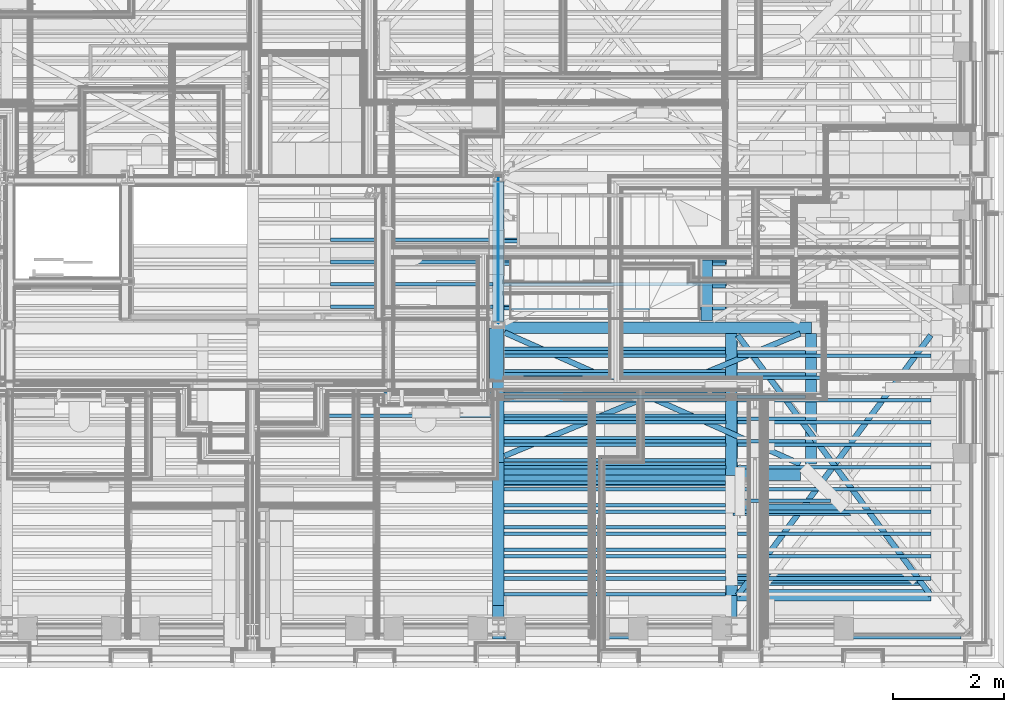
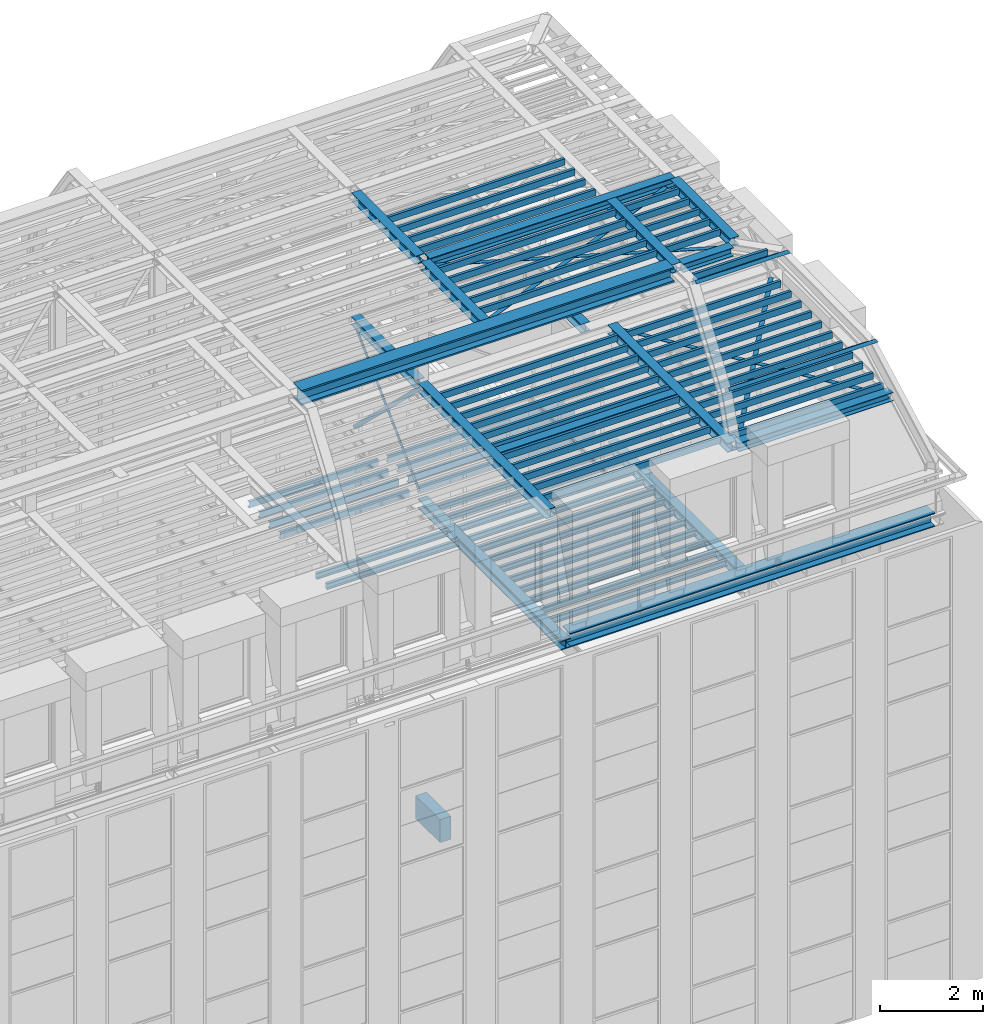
# One storey, part 9 of 183: 84 beams.
"""IFC2X3 building model written with IfcOpenShell, lengths in metres."""

from ifc_helpers import new_model, entity, si_unit, converted_unit, derived_unit, money_unit, direction, frame, frame_2d, origin_with_axes, place, context, subcontext, project, spatial, polyline, rectangle, outline, extrude, clip, halfspace, material, type_object, element, save


model = new_model("IFC2X3")

# Units and contexts
model_context = context("Model", 3, precision=1e-05, world=origin_with_axes(), true_north=direction((0.0, 1.0)))
body_context = subcontext(model_context, "Body", "Model", "MODEL_VIEW", scale=1.0)
ifc_project = project(units=[si_unit("LENGTHUNIT", "METRE"), si_unit("AREAUNIT", "SQUARE_METRE"), si_unit("VOLUMEUNIT", "CUBIC_METRE"), si_unit("ABSORBEDDOSEUNIT", "GRAY"), si_unit("AMOUNTOFSUBSTANCEUNIT", "MOLE"), si_unit("DOSEEQUIVALENTUNIT", "SIEVERT"), si_unit("ELECTRICCAPACITANCEUNIT", "FARAD"), si_unit("ELECTRICCHARGEUNIT", "COULOMB"), si_unit("ELECTRICCONDUCTANCEUNIT", "SIEMENS"), si_unit("ELECTRICCURRENTUNIT", "AMPERE"), si_unit("ELECTRICRESISTANCEUNIT", "OHM"), si_unit("ELECTRICVOLTAGEUNIT", "VOLT"), si_unit("ENERGYUNIT", "JOULE"), si_unit("FORCEUNIT", "NEWTON"), si_unit("FREQUENCYUNIT", "HERTZ"), si_unit("ILLUMINANCEUNIT", "LUX"), si_unit("INDUCTANCEUNIT", "HENRY"), si_unit("LUMINOUSFLUXUNIT", "LUMEN"), si_unit("LUMINOUSINTENSITYUNIT", "CANDELA"), si_unit("MAGNETICFLUXDENSITYUNIT", "TESLA"), si_unit("MAGNETICFLUXUNIT", "WEBER"), si_unit("MASSUNIT", "GRAM"), converted_unit("PLANEANGLEUNIT", "degree", entity("IfcReal", 0.0174532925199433), si_unit("PLANEANGLEUNIT", "RADIAN"), dimensions=[0, 0, 0, 0, 0, 0, 0]), si_unit("POWERUNIT", "WATT"), si_unit("PRESSUREUNIT", "PASCAL"), si_unit("RADIOACTIVITYUNIT", "BECQUEREL"), si_unit("SOLIDANGLEUNIT", "STERADIAN"), si_unit("THERMODYNAMICTEMPERATUREUNIT", "KELVIN"), si_unit("TIMEUNIT", "SECOND"), derived_unit("ACCELERATIONUNIT", [(si_unit("LENGTHUNIT", "METRE"), 1), (si_unit("TIMEUNIT", "SECOND"), -2)]), derived_unit("ANGULARVELOCITYUNIT", [(converted_unit("PLANEANGLEUNIT", "degree", entity("IfcReal", 0.0174532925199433), si_unit("PLANEANGLEUNIT", "RADIAN"), dimensions=[0, 0, 0, 0, 0, 0, 0]), 1), (si_unit("TIMEUNIT", "SECOND"), -1)]), derived_unit("CURVATUREUNIT", [(converted_unit("PLANEANGLEUNIT", "degree", entity("IfcReal", 0.0174532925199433), si_unit("PLANEANGLEUNIT", "RADIAN"), dimensions=[0, 0, 0, 0, 0, 0, 0]), 1), (si_unit("LENGTHUNIT", "METRE"), -1)]), derived_unit("DYNAMICVISCOSITYUNIT", [(si_unit("PRESSUREUNIT", "PASCAL"), 1), (si_unit("TIMEUNIT", "SECOND"), 1)]), derived_unit("HEATFLUXDENSITYUNIT", [(si_unit("POWERUNIT", "WATT"), 1), (si_unit("LENGTHUNIT", "METRE"), -2)]), derived_unit("HEATINGVALUEUNIT", [(si_unit("ENERGYUNIT", "JOULE"), 1), (si_unit("MASSUNIT", "GRAM"), -1)]), derived_unit("INTEGERCOUNTRATEUNIT", [(si_unit("TIMEUNIT", "SECOND"), -1)]), derived_unit("IONCONCENTRATIONUNIT", [(si_unit("MASSUNIT", "GRAM"), 1), (si_unit("VOLUMEUNIT", "CUBIC_METRE"), -1)]), derived_unit("ISOTHERMALMOISTURECAPACITYUNIT", [(si_unit("VOLUMEUNIT", "CUBIC_METRE"), 1), (si_unit("MASSUNIT", "GRAM"), -1)]), derived_unit("KINEMATICVISCOSITYUNIT", [(si_unit("AREAUNIT", "SQUARE_METRE"), 1), (si_unit("TIMEUNIT", "SECOND"), -1)]), derived_unit("LINEARFORCEUNIT", [(si_unit("FORCEUNIT", "NEWTON"), 1), (si_unit("LENGTHUNIT", "METRE"), -1)]), derived_unit("LINEARMOMENTUNIT", [(si_unit("FORCEUNIT", "NEWTON"), 1), (si_unit("LENGTHUNIT", "METRE"), -1)]), derived_unit("LINEARSTIFFNESSUNIT", [(si_unit("FORCEUNIT", "NEWTON"), 1), (si_unit("LENGTHUNIT", "METRE"), -1)]), derived_unit("LINEARVELOCITYUNIT", [(si_unit("LENGTHUNIT", "METRE"), 1), (si_unit("TIMEUNIT", "SECOND"), -1)]), derived_unit("LUMINOUSINTENSITYDISTRIBUTIONUNIT", [(si_unit("LUMINOUSINTENSITYUNIT", "CANDELA"), 1), (si_unit("LUMINOUSFLUXUNIT", "LUMEN"), -1)]), derived_unit("MASSDENSITYUNIT", [(si_unit("MASSUNIT", "GRAM"), 1), (si_unit("VOLUMEUNIT", "CUBIC_METRE"), -1)]), derived_unit("MASSFLOWRATEUNIT", [(si_unit("MASSUNIT", "GRAM"), 1), (si_unit("TIMEUNIT", "SECOND"), -1)]), derived_unit("MASSPERLENGTHUNIT", [(si_unit("MASSUNIT", "GRAM"), 1), (si_unit("LENGTHUNIT", "METRE"), -1)]), derived_unit("MODULUSOFELASTICITYUNIT", [(si_unit("FORCEUNIT", "NEWTON"), 1), (si_unit("AREAUNIT", "SQUARE_METRE"), -1)]), derived_unit("MODULUSOFLINEARSUBGRADEREACTIONUNIT", [(si_unit("FORCEUNIT", "NEWTON"), 1), (si_unit("LENGTHUNIT", "METRE"), -2)]), derived_unit("MODULUSOFROTATIONALSUBGRADEREACTIONUNIT", [(si_unit("FORCEUNIT", "NEWTON"), 1), (si_unit("LENGTHUNIT", "METRE"), 1)]), derived_unit("MODULUSOFSUBGRADEREACTIONUNIT", [(si_unit("FORCEUNIT", "NEWTON"), 1), (si_unit("VOLUMEUNIT", "CUBIC_METRE"), -1)]), derived_unit("MOISTUREDIFFUSIVITYUNIT", [(si_unit("VOLUMEUNIT", "CUBIC_METRE"), 1), (si_unit("TIMEUNIT", "SECOND"), -1)]), derived_unit("MOLECULARWEIGHTUNIT", [(si_unit("MASSUNIT", "GRAM"), 1), (si_unit("AMOUNTOFSUBSTANCEUNIT", "MOLE"), -1)]), derived_unit("PLANARFORCEUNIT", [(si_unit("FORCEUNIT", "NEWTON"), 1), (si_unit("LENGTHUNIT", "METRE"), -2)]), derived_unit("ROTATIONALFREQUENCYUNIT", [(si_unit("TIMEUNIT", "SECOND"), -1)]), derived_unit("ROTATIONALMASSUNIT", [(si_unit("MASSUNIT", "GRAM"), 1), (si_unit("LENGTHUNIT", "METRE"), 2)]), derived_unit("ROTATIONALSTIFFNESSUNIT", [(si_unit("FORCEUNIT", "NEWTON"), 1), (si_unit("LENGTHUNIT", "METRE"), 1), (converted_unit("PLANEANGLEUNIT", "degree", entity("IfcReal", 0.0174532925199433), si_unit("PLANEANGLEUNIT", "RADIAN"), dimensions=[0, 0, 0, 0, 0, 0, 0]), -1)]), derived_unit("SECTIONAREAINTEGRALUNIT", [(si_unit("LENGTHUNIT", "METRE"), 5)]), derived_unit("SECTIONMODULUSUNIT", [(si_unit("LENGTHUNIT", "METRE"), 3)]), derived_unit("SHEARMODULUSUNIT", [(si_unit("FORCEUNIT", "NEWTON"), 1), (si_unit("AREAUNIT", "SQUARE_METRE"), -1)]), derived_unit("SOUNDPOWERUNIT", [(si_unit("ENERGYUNIT", "JOULE"), 1), (si_unit("TIMEUNIT", "SECOND"), -1)]), derived_unit("SPECIFICHEATCAPACITYUNIT", [(si_unit("FORCEUNIT", "NEWTON"), 1), (si_unit("MASSUNIT", "GRAM"), -1), (si_unit("THERMODYNAMICTEMPERATUREUNIT", "KELVIN"), -1)]), derived_unit("TEMPERATUREGRADIENTUNIT", [(si_unit("THERMODYNAMICTEMPERATUREUNIT", "KELVIN"), 1), (si_unit("LENGTHUNIT", "METRE"), -1)]), derived_unit("THERMALADMITTANCEUNIT", [(si_unit("POWERUNIT", "WATT"), 1), (si_unit("AREAUNIT", "SQUARE_METRE"), -1), (si_unit("THERMODYNAMICTEMPERATUREUNIT", "KELVIN"), -1)]), derived_unit("THERMALCONDUCTANCEUNIT", [(si_unit("POWERUNIT", "WATT"), 1), (si_unit("LENGTHUNIT", "METRE"), -1), (si_unit("THERMODYNAMICTEMPERATUREUNIT", "KELVIN"), -1)]), derived_unit("THERMALEXPANSIONCOEFFICIENTUNIT", [(si_unit("THERMODYNAMICTEMPERATUREUNIT", "KELVIN"), -1)]), derived_unit("THERMALRESISTANCEUNIT", [(si_unit("AREAUNIT", "SQUARE_METRE"), 1), (si_unit("POWERUNIT", "WATT"), -1)]), derived_unit("THERMALTRANSMITTANCEUNIT", [(si_unit("POWERUNIT", "WATT"), 1), (si_unit("AREAUNIT", "SQUARE_METRE"), -1), (si_unit("THERMODYNAMICTEMPERATUREUNIT", "KELVIN"), -1)]), derived_unit("TORQUEUNIT", [(si_unit("FORCEUNIT", "NEWTON"), 1), (si_unit("LENGTHUNIT", "METRE"), 1)]), derived_unit("VAPORPERMEABILITYUNIT", [(si_unit("MASSUNIT", "GRAM"), 1), (si_unit("TIMEUNIT", "SECOND"), -1)]), derived_unit("VOLUMETRICFLOWRATEUNIT", [(si_unit("VOLUMEUNIT", "CUBIC_METRE"), 1), (si_unit("TIMEUNIT", "SECOND"), -1)]), derived_unit("WARPINGCONSTANTUNIT", [(si_unit("LENGTHUNIT", "METRE"), 6)]), derived_unit("WARPINGMOMENTUNIT", [(si_unit("FORCEUNIT", "NEWTON"), 1), (si_unit("LENGTHUNIT", "METRE"), 2)]), money_unit("GBP")], contexts=[model_context])

# Site, building, storey
site_placement = place(None, origin_with_axes())
site = spatial("IfcSite", under=ifc_project, at=site_placement, Name="Site", CompositionType="ELEMENT")
building_placement = place(site_placement, origin_with_axes())
building = spatial("IfcBuilding", under=site, at=building_placement, Name="Building01", CompositionType="ELEMENT")
storey_placement = place(building_placement, frame((0.0, 0.0, 5.15), z_axis=(0.0, 0.0, 1.0), x_axis=(1.0, 0.0, 0.0)))
storey = spatial("IfcBuildingStorey", under=building, at=storey_placement, Name="1F", CompositionType="ELEMENT", Elevation=5.15)

# Beams
ifc_material_1 = material(Name="A_BSUK_Beams_Steel")
beam_type_1 = type_object("IfcBeamType", Name="A-Beams-Steel", PredefinedType="BEAM")
beam_1_placement = place(storey_placement, frame((17.80545, 6.1, 9.5078), z_axis=(0.0, -1.0, 0.0), x_axis=(1.0, 0.0, 0.0)))
element("IfcBeam", 1, at=beam_1_placement, inside=storey, type_object=beam_type_1, material=ifc_material_1, Name="4F", ObjectType="A-Beams-Steel", context=body_context, shape_type="SweptSolid", body=[
    extrude(outline(polyline([(0.2091, 0.0), (0.2091, 0.0205), (0.1109, 0.0205), (0.1109, 0.2017), (0.2091, 0.2017), (0.2091, 0.2222), (0.0, 0.2222), (0.0, 0.2017), (0.0982, 0.2017), (0.0982, 0.0205), (0.0, 0.0205), (0.0, 0.0), (0.2091, 0.0)])), origin_with_axes(), (0.0, 0.0, 1.0), 5.58),
])
beam_2_placement = place(storey_placement, frame((21.98545, 5.9408, 9.5078), z_axis=(0.0, -1.0, 0.0), x_axis=(1.0, 0.0, 0.0)))
element("IfcBeam", 2, at=beam_2_placement, inside=storey, type_object=beam_type_1, material=ifc_material_1, Name="4F", ObjectType="A-Beams-Steel", context=body_context, shape_type="SweptSolid", body=[
    extrude(outline(polyline([(0.2091, 0.0), (0.2091, 0.0205), (0.1109, 0.0205), (0.1109, 0.2017), (0.2091, 0.2017), (0.2091, 0.2222), (0.0, 0.2222), (0.0, 0.2017), (0.0982, 0.2017), (0.0982, 0.0205), (0.0, 0.0205), (0.0, 0.0), (0.2091, 0.0)])), origin_with_axes(), (0.0, 0.0, 1.0), 5.1096),
])
beam_3_placement = place(storey_placement, frame((18.01455, 0.52, 9.5078), z_axis=(1.0, 0.0, 0.0), x_axis=(0.0, 1.0, 0.0)))
element("IfcBeam", 3, at=beam_3_placement, inside=storey, type_object=beam_type_1, material=ifc_material_1, Name="4F", ObjectType="A-Beams-Steel", context=body_context, shape_type="SweptSolid", body=[
    extrude(outline(polyline([(0.3112, 0.0), (0.3112, 0.025), (0.1635, 0.025), (0.1635, 0.3021), (0.3112, 0.3021), (0.3112, 0.3271), (0.0, 0.3271), (0.0, 0.3021), (0.1477, 0.3021), (0.1477, 0.025), (0.0, 0.025), (0.0, 0.0), (0.3112, 0.0)])), origin_with_axes(), (0.0, 0.0, 1.0), 8.19635),
])
beam_4_placement = place(storey_placement, frame((22.19455, 1.1982, 12.2768), z_axis=(1.0, 0.0, 0.0), x_axis=(0.0, 1.0, 0.0)))
element("IfcBeam", 4, at=beam_4_placement, inside=storey, type_object=beam_type_1, material=ifc_material_1, Name="5F", ObjectType="A-Beams-Steel", context=body_context, shape_type="SweptSolid", body=[
    extrude(outline(polyline([(0.2036, 0.0), (0.2036, 0.011), (0.1054, 0.011), (0.1054, 0.1922), (0.2036, 0.1922), (0.2036, 0.2032), (0.0, 0.2032), (0.0, 0.1922), (0.0982, 0.1922), (0.0982, 0.011), (0.0, 0.011), (0.0, 0.0), (0.2036, 0.0)])), origin_with_axes(), (0.0, 0.0, 1.0), 3.47225),
])
beam_5_placement = place(storey_placement, frame((17.8068, 6.1, 12.2642), z_axis=(0.0, -1.0, 0.0), x_axis=(1.0, 0.0, 0.0)))
element("IfcBeam", 5, at=beam_5_placement, inside=storey, type_object=beam_type_1, material=ifc_material_1, Name="5F", ObjectType="A-Beams-Steel", context=body_context, shape_type="SweptSolid", body=[
    extrude(outline(polyline([(0.2064, 0.0), (0.2064, 0.0173), (0.1082, 0.0173), (0.1082, 0.1985), (0.2064, 0.1985), (0.2064, 0.2158), (0.0, 0.2158), (0.0, 0.1985), (0.0982, 0.1985), (0.0982, 0.0173), (0.0, 0.0173), (0.0, 0.0), (0.2064, 0.0)])), origin_with_axes(), (0.0, 0.0, 1.0), 4.980311),
])
beam_6_placement = place(storey_placement, frame((21.9968, 5.967373, 12.2642), z_axis=(0.0, -1.0, 0.0), x_axis=(1.0, 0.0, 0.0)))
element("IfcBeam", 6, at=beam_6_placement, inside=storey, type_object=beam_type_1, material=ifc_material_1, Name="5F", ObjectType="A-Beams-Steel", context=body_context, shape_type="SweptSolid", body=[
    extrude(outline(polyline([(0.2064, 0.0), (0.2064, 0.0173), (0.1082, 0.0173), (0.1082, 0.1985), (0.2064, 0.1985), (0.2064, 0.2158), (0.0, 0.2158), (0.0, 0.1985), (0.0982, 0.1985), (0.0982, 0.0173), (0.0, 0.0173), (0.0, 0.0), (0.2064, 0.0)])), origin_with_axes(), (0.0, 0.0, 1.0), 4.665573),
])
beam_7_placement = place(storey_placement, frame((17.8082, 8.725, 12.2768), z_axis=(0.0, -1.0, 0.0), x_axis=(1.0, 0.0, 0.0)))
element("IfcBeam", 7, at=beam_7_placement, inside=storey, type_object=beam_type_1, material=ifc_material_1, Name="5F", ObjectType="A-Beams-Steel", context=body_context, shape_type="SweptSolid", body=[
    extrude(outline(polyline([(0.2036, 0.0), (0.2036, 0.011), (0.1054, 0.011), (0.1054, 0.1922), (0.2036, 0.1922), (0.2036, 0.2032), (0.0, 0.2032), (0.0, 0.1922), (0.0982, 0.1922), (0.0982, 0.011), (0.0, 0.011), (0.0, 0.0), (0.2036, 0.0)])), origin_with_axes(), (0.0, 0.0, 1.0), 2.525),
])
beam_8_placement = place(storey_placement, frame((21.5482, 7.3174, 12.2768), z_axis=(0.0, -1.0, 0.0), x_axis=(1.0, 0.0, 0.0)))
element("IfcBeam", 8, at=beam_8_placement, inside=storey, type_object=beam_type_1, material=ifc_material_1, Name="5F", ObjectType="A-Beams-Steel", context=body_context, shape_type="SweptSolid", body=[
    extrude(outline(polyline([(0.2036, 0.0), (0.2036, 0.011), (0.1054, 0.011), (0.1054, 0.1922), (0.2036, 0.1922), (0.2036, 0.2032), (0.0, 0.2032), (0.0, 0.1922), (0.0982, 0.1922), (0.0982, 0.011), (0.0, 0.011), (0.0, 0.0), (0.2036, 0.0)])), origin_with_axes(), (0.0, 0.0, 1.0), 1.084457),
])
beam_9_placement = place(storey_placement, frame((18.0132, 3.2582, 12.2768), z_axis=(1.0, 0.0, 0.0), x_axis=(0.0, 1.0, 0.0)))
element("IfcBeam", 9, at=beam_9_placement, inside=storey, type_object=beam_type_1, material=ifc_material_1, Name="5F", ObjectType="A-Beams-Steel", context=body_context, shape_type="SweptSolid", body=[
    extrude(outline(polyline([(0.2036, 0.0), (0.2036, 0.011), (0.1054, 0.011), (0.1054, 0.1922), (0.2036, 0.1922), (0.2036, 0.2032), (0.0, 0.2032), (0.0, 0.1922), (0.0982, 0.1922), (0.0982, 0.011), (0.0, 0.011), (0.0, 0.0), (0.2036, 0.0)])), origin_with_axes(), (0.0, 0.0, 1.0), 3.9836),
])
beam_10_placement = place(storey_placement, frame((17.8082, 8.6968, 15.2268), z_axis=(0.0, -1.0, 0.0), x_axis=(1.0, 0.0, 0.0)))
element("IfcBeam", 10, at=beam_10_placement, inside=storey, type_object=beam_type_1, material=ifc_material_1, Name="RP", ObjectType="A-Beams-Steel", context=body_context, shape_type="SweptSolid", body=[
    extrude(outline(polyline([(0.2036, 0.0), (0.2036, 0.011), (0.1054, 0.011), (0.1054, 0.1922), (0.2036, 0.1922), (0.2036, 0.2032), (0.0, 0.2032), (0.0, 0.1922), (0.0982, 0.1922), (0.0982, 0.011), (0.0, 0.011), (0.0, 0.0), (0.2036, 0.0)])), origin_with_axes(), (0.0, 0.0, 1.0), 2.495),
])
beam_11_placement = place(storey_placement, frame((17.8082, 5.9982, 15.2268), z_axis=(0.0, -1.0, 0.0), x_axis=(1.0, 0.0, 0.0)))
element("IfcBeam", 11, at=beam_11_placement, inside=storey, type_object=beam_type_1, material=ifc_material_1, Name="RP", ObjectType="A-Beams-Steel", context=body_context, shape_type="SweptSolid", body=[
    extrude(outline(polyline([(0.2036, 0.0), (0.2036, 0.011), (0.1054, 0.011), (0.1054, 0.1922), (0.2036, 0.1922), (0.2036, 0.2032), (0.0, 0.2032), (0.0, 0.1922), (0.0982, 0.1922), (0.0982, 0.011), (0.0, 0.011), (0.0, 0.0), (0.2036, 0.0)])), origin_with_axes(), (0.0, 0.0, 1.0), 2.319),
])
beam_12_placement = place(storey_placement, frame((21.988166, 5.9968, 15.2268), z_axis=(0.0, -1.0, 0.0), x_axis=(1.0, 0.0, 0.0)))
element("IfcBeam", 12, at=beam_12_placement, inside=storey, type_object=beam_type_1, material=ifc_material_1, Name="RP", ObjectType="A-Beams-Steel", context=body_context, shape_type="SweptSolid", body=[
    extrude(outline(polyline([(0.2036, 0.0), (0.2036, 0.011), (0.1054, 0.011), (0.1054, 0.1922), (0.2036, 0.1922), (0.2036, 0.2032), (0.0, 0.2032), (0.0, 0.1922), (0.0982, 0.1922), (0.0982, 0.011), (0.0, 0.011), (0.0, 0.0), (0.2036, 0.0)])), origin_with_axes(), (0.0, 0.0, 1.0), 2.546),
])
beam_13_placement = place(storey_placement, frame((23.415402, 5.9968, 15.2268), z_axis=(0.0, -1.0, 0.0), x_axis=(1.0, 0.0, 0.0)))
element("IfcBeam", 13, at=beam_13_placement, inside=storey, type_object=beam_type_1, material=ifc_material_1, Name="RP", ObjectType="A-Beams-Steel", context=body_context, shape_type="SweptSolid", body=[
    extrude(outline(polyline([(0.2036, 0.0), (0.2036, 0.011), (0.1054, 0.011), (0.1054, 0.1922), (0.2036, 0.1922), (0.2036, 0.2032), (0.0, 0.2032), (0.0, 0.1922), (0.0982, 0.1922), (0.0982, 0.011), (0.0, 0.011), (0.0, 0.0), (0.2036, 0.0)])), origin_with_axes(), (0.0, 0.0, 1.0), 2.3424),
])
beam_14_placement = place(storey_placement, frame((22.191766, 3.3608, 15.2268), z_axis=(1.0, 0.0, 0.0), x_axis=(0.0, 1.0, 0.0)))
element("IfcBeam", 14, at=beam_14_placement, inside=storey, type_object=beam_type_1, material=ifc_material_1, Name="RP", ObjectType="A-Beams-Steel", context=body_context, shape_type="SweptSolid", body=[
    extrude(outline(polyline([(0.2036, 0.0), (0.2036, 0.011), (0.1054, 0.011), (0.1054, 0.1922), (0.2036, 0.1922), (0.2036, 0.2032), (0.0, 0.2032), (0.0, 0.1922), (0.0982, 0.1922), (0.0982, 0.011), (0.0, 0.011), (0.0, 0.0), (0.2036, 0.0)])), origin_with_axes(), (0.0, 0.0, 1.0), 1.133636),
])
beam_15_placement = place(storey_placement, frame((18.0118, 5.9968, 15.2142), z_axis=(1.0, 0.0, 0.0), x_axis=(0.0, 1.0, 0.0)))
element("IfcBeam", 15, at=beam_15_placement, inside=storey, type_object=beam_type_1, material=ifc_material_1, Name="RP", ObjectType="A-Beams-Steel", context=body_context, shape_type="SweptSolid", body=[
    extrude(outline(polyline([(0.2064, 0.0), (0.2064, 0.0173), (0.1082, 0.0173), (0.1082, 0.1985), (0.2064, 0.1985), (0.2064, 0.2158), (0.0, 0.2158), (0.0, 0.1985), (0.0982, 0.1985), (0.0982, 0.0173), (0.0, 0.0173), (0.0, 0.0), (0.2064, 0.0)])), origin_with_axes(), (0.0, 0.0, 1.0), 5.517202),
])
beam_16_placement = place(storey_placement, frame((13.6018, 3.3608, 15.0775), z_axis=(1.0, 0.0, 0.0), x_axis=(0.0, 1.0, 0.0)))
element("IfcBeam", 16, at=beam_16_placement, inside=storey, type_object=beam_type_1, material=ifc_material_1, Name="RP", ObjectType="A-Beams-Steel", context=body_context, shape_type="SweptSolid", body=[
    extrude(outline(polyline([(0.3184, 0.0), (0.3184, 0.0377), (0.1707, 0.0377), (0.1707, 0.3148), (0.3184, 0.3148), (0.3184, 0.3525), (0.0, 0.3525), (0.0, 0.3148), (0.1477, 0.3148), (0.1477, 0.0377), (0.0, 0.0377), (0.0, 0.0), (0.3184, 0.0)])), origin_with_axes(), (0.0, 0.0, 1.0), 8.386366),
])
for number, where, z_axis, x_axis, name in (
    (17, (22.163054, 5.93757, 12.318), (0.59607395, -0.80292954, 0.0), (0.80292954, 0.59607395, 0.0), "5F"),
    (18, (25.626654, 5.997177, 12.308), (-0.59607395, -0.80292954, 0.0), (0.80292954, -0.59607395, 0.0), "5F"),
):
    element("IfcBeam", number, at=place(storey_placement, frame(where, z_axis=z_axis, x_axis=x_axis)), inside=storey, type_object=beam_type_1, material=ifc_material_1, Name=name, ObjectType="A-Beams-Steel", context=body_context, shape_type="SweptSolid", body=[
        extrude(rectangle(XDim=0.01, YDim=0.1, at=frame_2d((0.05, 0.005), x_axis=(0.0, 1.0))), origin_with_axes(), (0.0, 0.0, 1.0), 5.810688),
    ])
beam_17_placement = place(storey_placement, frame((18.038221, 3.755335, 15.268), z_axis=(0.92404426, 0.3822855, 0.0), x_axis=(-0.3822855, 0.92404426, 0.0)))
element("IfcBeam", 19, at=beam_17_placement, inside=storey, type_object=beam_type_1, material=ifc_material_1, Name="RP", ObjectType="A-Beams-Steel", context=body_context, shape_type="SweptSolid", body=[
    extrude(rectangle(XDim=0.01, YDim=0.1, at=frame_2d((0.05, 0.005), x_axis=(0.0, 1.0))), origin_with_axes(), (0.0, 0.0, 1.0), 5.742468),
])
beam_18_placement = place(storey_placement, frame((17.99973, 5.969692, 15.258), z_axis=(0.91361602, -0.40657812, 0.0), x_axis=(0.40657812, 0.91361602, 0.0)))
element("IfcBeam", 20, at=beam_18_placement, inside=storey, type_object=beam_type_1, material=ifc_material_1, Name="RP", ObjectType="A-Beams-Steel", context=body_context, shape_type="SweptSolid", body=[
    extrude(rectangle(XDim=0.01, YDim=0.1, at=frame_2d((0.05, 0.005), x_axis=(0.0, 1.0))), origin_with_axes(), (0.0, 0.0, 1.0), 5.806967),
])
beam_19_placement = place(storey_placement, frame((17.92, 8.75159, 9.719864), z_axis=(0.0, -0.71744141, 0.69661885), x_axis=(0.0, 0.69661885, 0.71744141)))
element("IfcBeam", 21, at=beam_19_placement, inside=storey, type_object=beam_type_1, material=ifc_material_1, Name="4F", ObjectType="A-Beams-Steel", context=body_context, shape_type="SweptSolid", body=[
    extrude(rectangle(XDim=0.01, YDim=0.1, at=frame_2d((0.05, 0.005), x_axis=(0.0, 1.0))), origin_with_axes(), (0.0, 0.0, 1.0), 3.594784),
])
beam_20_placement = place(storey_placement, frame((17.91, 6.184843, 9.844613), z_axis=(0.0, 0.71831265, 0.69572044), x_axis=(0.0, 0.69572044, -0.71831265)))
element("IfcBeam", 22, at=beam_20_placement, inside=storey, type_object=beam_type_1, material=ifc_material_1, Name="4F", ObjectType="A-Beams-Steel", context=body_context, shape_type="SweptSolid", body=[
    extrude(rectangle(XDim=0.01, YDim=0.1, at=frame_2d((0.05, 0.005), x_axis=(0.0, 1.0))), origin_with_axes(), (0.0, 0.0, 1.0), 3.50123),
])
beam_21_placement = place(storey_placement, frame((24.241618, 2.940134, 15.308898), z_axis=(-1.0, 0.0, 0.0), x_axis=(0.0, -0.57351196, -0.81919718)))
element("IfcBeam", 23, at=beam_21_placement, inside=storey, type_object=beam_type_1, material=ifc_material_1, Name="RP", ObjectType="A-Beams-Steel", context=body_context, shape_type="Clipping", body=[
    clip(clip(extrude(outline(polyline([(0.075, 0.0), (0.075, 0.012), (0.006, 0.012), (0.006, 0.188), (0.075, 0.188), (0.075, 0.2), (0.0, 0.2), (0.0, 0.0), (0.075, 0.0)])), origin_with_axes(), (0.0, 0.0, 1.0), 2.119791), halfspace(frame((0.059316, 0.084727, 0.103426), z_axis=(0.4055342, 0.57925988, 0.70710678), x_axis=(0.86746356, 0.0, -0.49750073)), True)), halfspace(frame((-6.106865, -8.722969, 10.648192), z_axis=(0.4055342, 0.57925988, -0.70710678), x_axis=(-0.86746356, 0.0, -0.49750073)), True)),
])
beam_22_placement = place(storey_placement, frame((25.497526, 1.684227, 13.514975), z_axis=(-1.0, 0.0, 0.0), x_axis=(0.0, -0.57351196, -0.81919718)))
element("IfcBeam", 24, at=beam_22_placement, inside=storey, type_object=beam_type_1, material=ifc_material_1, Name="5F", ObjectType="A-Beams-Steel", context=body_context, shape_type="Clipping", body=[
    clip(clip(extrude(outline(polyline([(0.075, 0.0), (0.075, 0.012), (0.006, 0.012), (0.006, 0.188), (0.075, 0.188), (0.075, 0.2), (0.0, 0.2), (0.0, 0.0), (0.075, 0.0)])), origin_with_axes(), (0.0, 0.0, 1.0), 3.354332), halfspace(frame((0.059316, 0.084727, 0.103426), z_axis=(0.4055342, 0.57925988, 0.70710678), x_axis=(0.86746356, 0.0, -0.49750073)), True)), halfspace(frame((-6.827144, -9.751805, 11.9041), z_axis=(0.4055342, 0.57925988, -0.70710678), x_axis=(-0.86746356, 0.0, -0.49750073)), True)),
])
ifc_material_2 = material(Name="S_BSUK_Beams_PrecastConcrete")
beam_type_2 = type_object("IfcBeamType", Name="S-Beams:S_BSUK_Beams_PrecastConcrete", PredefinedType="NOTDEFINED")
beam_23_placement = place(storey_placement, frame((17.75, 6.1, 2.142), z_axis=(0.0, -1.0, 0.0), x_axis=(1.0, 0.0, 0.0)))
element("IfcBeam", 25, at=beam_23_placement, inside=storey, type_object=beam_type_2, material=ifc_material_2, Name="S-Beams--S_BSUK_Beams_PrecastConcrete", ObjectType="S-Beams:S_BSUK_Beams_PrecastConcrete", context=body_context, shape_type="SweptSolid", body=[
    extrude(rectangle(XDim=0.548, YDim=0.25, at=frame_2d((0.125, 0.274), x_axis=(0.0, 1.0))), origin_with_axes(), (0.0, 0.0, 1.0), 0.95),
])
beam_type_3 = type_object("IfcBeamType", Name="SHE_A-Beams-Steel-Purlin_150m15", PredefinedType="BEAM")
for number, where, z_axis, x_axis, name in (
    (26, (21.98545, 1.352, 9.578), (-1.0, 0.0, 0.0), (0.0, -1.0, 0.0), "4F"),
    (27, (21.98545, 1.752, 9.578), (-1.0, 0.0, 0.0), (0.0, -1.0, 0.0), "4F"),
    (28, (21.98545, 2.152, 9.578), (-1.0, 0.0, 0.0), (0.0, -1.0, 0.0), "4F"),
    (29, (21.98545, 2.552, 9.578), (-1.0, 0.0, 0.0), (0.0, -1.0, 0.0), "4F"),
    (30, (21.98545, 2.952, 9.578), (-1.0, 0.0, 0.0), (0.0, -1.0, 0.0), "4F"),
    (31, (21.98545, 3.352, 9.578), (-1.0, 0.0, 0.0), (0.0, -1.0, 0.0), "4F"),
    (32, (21.98545, 3.752, 9.578), (-1.0, 0.0, 0.0), (0.0, -1.0, 0.0), "4F"),
    (33, (21.98545, 4.152, 9.578), (-1.0, 0.0, 0.0), (0.0, -1.0, 0.0), "4F"),
    (34, (21.98545, 4.552, 9.578), (-1.0, 0.0, 0.0), (0.0, -1.0, 0.0), "4F"),
    (35, (21.98545, 4.952, 9.578), (-1.0, 0.0, 0.0), (0.0, -1.0, 0.0), "4F"),
    (36, (21.98545, 5.352, 9.578), (-1.0, 0.0, 0.0), (0.0, -1.0, 0.0), "4F"),
    (37, (21.98545, 5.752, 9.578), (-1.0, 0.0, 0.0), (0.0, -1.0, 0.0), "4F"),
):
    element("IfcBeam", number, at=place(storey_placement, frame(where, z_axis=z_axis, x_axis=x_axis)), inside=storey, type_object=beam_type_3, material=ifc_material_1, Name=name, ObjectType="SHE_A-Beams-Steel-Purlin_150m15", context=body_context, shape_type="SweptSolid", body=[
        extrude(outline(polyline([(0.064, 0.0), (0.064, 0.0155), (0.0625, 0.0155), (0.0625, 0.0015), (0.0015, 0.0015), (0.0015, 0.1505), (0.0625, 0.1505), (0.0625, 0.1365), (0.064, 0.1365), (0.064, 0.152), (0.0, 0.152), (0.0, 0.0), (0.064, 0.0)])), origin_with_axes(), (0.0, 0.0, 1.0), 3.9709),
    ])
for number, where, z_axis, x_axis, name in (
    (38, (22.2032, 1.5698, 12.328), (1.0, 0.0, 0.0), (0.0, 1.0, 0.0), "5F"),
    (39, (22.2032, 1.9698, 12.328), (1.0, 0.0, 0.0), (0.0, 1.0, 0.0), "5F"),
    (40, (22.2032, 2.3698, 12.328), (1.0, 0.0, 0.0), (0.0, 1.0, 0.0), "5F"),
    (41, (22.2032, 2.7698, 12.328), (1.0, 0.0, 0.0), (0.0, 1.0, 0.0), "5F"),
    (42, (22.2032, 3.1698, 12.328), (1.0, 0.0, 0.0), (0.0, 1.0, 0.0), "5F"),
    (43, (22.2032, 3.5698, 12.328), (1.0, 0.0, 0.0), (0.0, 1.0, 0.0), "5F"),
    (44, (22.2032, 3.9698, 12.328), (1.0, 0.0, 0.0), (0.0, 1.0, 0.0), "5F"),
    (45, (22.2032, 4.3698, 12.328), (1.0, 0.0, 0.0), (0.0, 1.0, 0.0), "5F"),
    (46, (22.2032, 4.7698, 12.328), (1.0, 0.0, 0.0), (0.0, 1.0, 0.0), "5F"),
    (47, (22.2032, 5.1698, 12.328), (1.0, 0.0, 0.0), (0.0, 1.0, 0.0), "5F"),
    (48, (22.2032, 5.5698, 12.328), (1.0, 0.0, 0.0), (0.0, 1.0, 0.0), "5F"),
):
    element("IfcBeam", number, at=place(storey_placement, frame(where, z_axis=z_axis, x_axis=x_axis)), inside=storey, type_object=beam_type_3, material=ifc_material_1, Name=name, ObjectType="SHE_A-Beams-Steel-Purlin_150m15", context=body_context, shape_type="SweptSolid", body=[
        extrude(outline(polyline([(0.064, 0.0), (0.064, 0.0155), (0.0625, 0.0155), (0.0625, 0.0015), (0.0015, 0.0015), (0.0015, 0.1505), (0.0625, 0.1505), (0.0625, 0.1365), (0.064, 0.1365), (0.064, 0.152), (0.0, 0.152), (0.0, 0.0), (0.064, 0.0)])), origin_with_axes(), (0.0, 0.0, 1.0), 3.4636),
    ])
for number, where, z_axis, x_axis, name in (
    (49, (22.191766, 4.032648, 15.278), (1.0, 0.0, 0.0), (0.0, 1.0, 0.0), "RP"),
    (50, (22.191766, 4.432648, 15.278), (1.0, 0.0, 0.0), (0.0, 1.0, 0.0), "RP"),
    (51, (22.191766, 4.832648, 15.278), (1.0, 0.0, 0.0), (0.0, 1.0, 0.0), "RP"),
    (52, (22.191766, 5.232648, 15.278), (1.0, 0.0, 0.0), (0.0, 1.0, 0.0), "RP"),
    (53, (22.191766, 5.632648, 15.278), (1.0, 0.0, 0.0), (0.0, 1.0, 0.0), "RP"),
):
    element("IfcBeam", number, at=place(storey_placement, frame(where, z_axis=z_axis, x_axis=x_axis)), inside=storey, type_object=beam_type_3, material=ifc_material_1, Name=name, ObjectType="SHE_A-Beams-Steel-Purlin_150m15", context=body_context, shape_type="SweptSolid", body=[
        extrude(outline(polyline([(0.064, 0.0), (0.064, 0.0155), (0.0625, 0.0155), (0.0625, 0.0015), (0.0015, 0.0015), (0.0015, 0.1505), (0.0625, 0.1505), (0.0625, 0.1365), (0.064, 0.1365), (0.064, 0.152), (0.0, 0.152), (0.0, 0.0), (0.064, 0.0)])), origin_with_axes(), (0.0, 0.0, 1.0), 1.223636),
    ])
for number, where, z_axis, x_axis, name in (
    (54, (17.80545, 4.552, 9.578), (-1.0, 0.0, 0.0), (0.0, -1.0, 0.0), "4F"),
    (55, (17.80545, 4.952, 9.578), (-1.0, 0.0, 0.0), (0.0, -1.0, 0.0), "4F"),
):
    element("IfcBeam", number, at=place(storey_placement, frame(where, z_axis=z_axis, x_axis=x_axis)), inside=storey, type_object=beam_type_3, material=ifc_material_1, Name=name, ObjectType="SHE_A-Beams-Steel-Purlin_150m15", context=body_context, shape_type="SweptSolid", body=[
        extrude(outline(polyline([(0.064, 0.0), (0.064, 0.0155), (0.0625, 0.0155), (0.0625, 0.0015), (0.0015, 0.0015), (0.0015, 0.1505), (0.0625, 0.1505), (0.0625, 0.1365), (0.064, 0.1365), (0.064, 0.152), (0.0, 0.152), (0.0, 0.0), (0.064, 0.0)])), origin_with_axes(), (0.0, 0.0, 1.0), 2.97365),
    ])
for number, where, z_axis, x_axis, name in (
    (56, (18.01455, 6.448, 9.578), (1.0, 0.0, 0.0), (0.0, 1.0, 0.0), "4F"),
    (57, (18.01455, 6.848, 9.578), (1.0, 0.0, 0.0), (0.0, 1.0, 0.0), "4F"),
    (58, (18.01455, 7.248, 9.578), (1.0, 0.0, 0.0), (0.0, 1.0, 0.0), "4F"),
    (59, (18.01455, 7.648, 9.578), (1.0, 0.0, 0.0), (0.0, 1.0, 0.0), "4F"),
):
    element("IfcBeam", number, at=place(storey_placement, frame(where, z_axis=z_axis, x_axis=x_axis)), inside=storey, type_object=beam_type_3, material=ifc_material_1, Name=name, ObjectType="SHE_A-Beams-Steel-Purlin_150m15", context=body_context, shape_type="SweptSolid", body=[
        extrude(outline(polyline([(0.064, 0.0), (0.064, 0.0155), (0.0625, 0.0155), (0.0625, 0.0015), (0.0015, 0.0015), (0.0015, 0.1505), (0.0625, 0.1505), (0.0625, 0.1365), (0.064, 0.1365), (0.064, 0.152), (0.0, 0.152), (0.0, 0.0), (0.064, 0.0)])), origin_with_axes(), (0.0, 0.0, 1.0), 3.98365),
    ])
for number, where, z_axis, x_axis, name in (
    (60, (18.0132, 1.5698, 12.328), (1.0, 0.0, 0.0), (0.0, 1.0, 0.0), "5F"),
    (61, (18.0132, 1.9698, 12.328), (1.0, 0.0, 0.0), (0.0, 1.0, 0.0), "5F"),
    (62, (18.0132, 2.3698, 12.328), (1.0, 0.0, 0.0), (0.0, 1.0, 0.0), "5F"),
    (63, (18.0132, 2.7698, 12.328), (1.0, 0.0, 0.0), (0.0, 1.0, 0.0), "5F"),
    (64, (18.0132, 3.1698, 12.328), (1.0, 0.0, 0.0), (0.0, 1.0, 0.0), "5F"),
    (65, (18.0132, 3.5698, 12.328), (1.0, 0.0, 0.0), (0.0, 1.0, 0.0), "5F"),
    (66, (18.0132, 3.9698, 12.328), (1.0, 0.0, 0.0), (0.0, 1.0, 0.0), "5F"),
    (67, (18.0132, 4.3698, 12.328), (1.0, 0.0, 0.0), (0.0, 1.0, 0.0), "5F"),
    (68, (18.0132, 4.7698, 12.328), (1.0, 0.0, 0.0), (0.0, 1.0, 0.0), "5F"),
    (69, (18.0132, 5.1698, 12.328), (1.0, 0.0, 0.0), (0.0, 1.0, 0.0), "5F"),
    (70, (18.0132, 5.5698, 12.328), (1.0, 0.0, 0.0), (0.0, 1.0, 0.0), "5F"),
):
    element("IfcBeam", number, at=place(storey_placement, frame(where, z_axis=z_axis, x_axis=x_axis)), inside=storey, type_object=beam_type_3, material=ifc_material_1, Name=name, ObjectType="SHE_A-Beams-Steel-Purlin_150m15", context=body_context, shape_type="SweptSolid", body=[
        extrude(outline(polyline([(0.064, 0.0), (0.064, 0.0155), (0.0625, 0.0155), (0.0625, 0.0015), (0.0015, 0.0015), (0.0015, 0.1505), (0.0625, 0.1505), (0.0625, 0.1365), (0.064, 0.1365), (0.064, 0.152), (0.0, 0.152), (0.0, 0.0), (0.064, 0.0)])), origin_with_axes(), (0.0, 0.0, 1.0), 3.9836),
    ])
for number, where, z_axis, x_axis, name in (
    (71, (18.0118, 4.0328, 15.278), (1.0, 0.0, 0.0), (0.0, 1.0, 0.0), "RP"),
    (72, (18.0118, 4.4328, 15.278), (1.0, 0.0, 0.0), (0.0, 1.0, 0.0), "RP"),
    (73, (18.0118, 4.8328, 15.278), (1.0, 0.0, 0.0), (0.0, 1.0, 0.0), "RP"),
    (74, (18.0118, 5.232648, 15.278), (1.0, 0.0, 0.0), (0.0, 1.0, 0.0), "RP"),
    (75, (18.0118, 5.632648, 15.278), (1.0, 0.0, 0.0), (0.0, 1.0, 0.0), "RP"),
    (76, (18.0118, 6.818152, 15.278), (1.0, 0.0, 0.0), (0.0, 1.0, 0.0), "RP"),
    (77, (18.0118, 7.218152, 15.278), (1.0, 0.0, 0.0), (0.0, 1.0, 0.0), "RP"),
    (78, (18.0118, 7.618152, 15.278), (1.0, 0.0, 0.0), (0.0, 1.0, 0.0), "RP"),
    (79, (18.0118, 6.418, 15.278), (1.0, 0.0, 0.0), (0.0, 1.0, 0.0), "RP"),
):
    element("IfcBeam", number, at=place(storey_placement, frame(where, z_axis=z_axis, x_axis=x_axis)), inside=storey, type_object=beam_type_3, material=ifc_material_1, Name=name, ObjectType="SHE_A-Beams-Steel-Purlin_150m15", context=body_context, shape_type="SweptSolid", body=[
        extrude(outline(polyline([(0.064, 0.0), (0.064, 0.0155), (0.0625, 0.0155), (0.0625, 0.0015), (0.0015, 0.0015), (0.0015, 0.1505), (0.0625, 0.1505), (0.0625, 0.1365), (0.064, 0.1365), (0.064, 0.152), (0.0, 0.152), (0.0, 0.0), (0.064, 0.0)])), origin_with_axes(), (0.0, 0.0, 1.0), 3.976366),
    ])
for number, where, z_axis, x_axis, name in (
    (80, (14.899557, 6.448, 9.578), (1.0, 0.0, 0.0), (0.0, 1.0, 0.0), "4F"),
    (81, (14.899557, 6.848, 9.578), (1.0, 0.0, 0.0), (0.0, 1.0, 0.0), "4F"),
    (82, (14.899557, 7.248, 9.578), (1.0, 0.0, 0.0), (0.0, 1.0, 0.0), "4F"),
    (83, (14.899557, 7.648, 9.578), (1.0, 0.0, 0.0), (0.0, 1.0, 0.0), "4F"),
):
    element("IfcBeam", number, at=place(storey_placement, frame(where, z_axis=z_axis, x_axis=x_axis)), inside=storey, type_object=beam_type_3, material=ifc_material_1, Name=name, ObjectType="SHE_A-Beams-Steel-Purlin_150m15", context=body_context, shape_type="SweptSolid", body=[
        extrude(outline(polyline([(0.064, 0.0), (0.064, 0.0155), (0.0625, 0.0155), (0.0625, 0.0015), (0.0015, 0.0015), (0.0015, 0.1505), (0.0625, 0.1505), (0.0625, 0.1365), (0.064, 0.1365), (0.064, 0.152), (0.0, 0.152), (0.0, 0.0), (0.064, 0.0)])), origin_with_axes(), (0.0, 0.0, 1.0), 2.910443),
    ])
beam_24_placement = place(storey_placement, frame((22.191766, 2.966407, 15.278), z_axis=(1.0, 0.0, 0.0), x_axis=(0.0, 1.0, 0.0)))
element("IfcBeam", 84, at=beam_24_placement, inside=storey, type_object=beam_type_3, material=ifc_material_1, Name="RP", ObjectType="SHE_A-Beams-Steel-Purlin_150m15", context=body_context, shape_type="SweptSolid", body=[
    extrude(outline(polyline([(0.064, 0.0), (0.064, 0.0155), (0.0625, 0.0155), (0.0625, 0.0015), (0.0015, 0.0015), (0.0015, 0.1505), (0.0625, 0.1505), (0.0625, 0.1365), (0.064, 0.1365), (0.064, 0.152), (0.0, 0.152), (0.0, 0.0), (0.064, 0.0)])), origin_with_axes(), (0.0, 0.0, 1.0), 1.675614),
])

save(model, "model.ifc")
